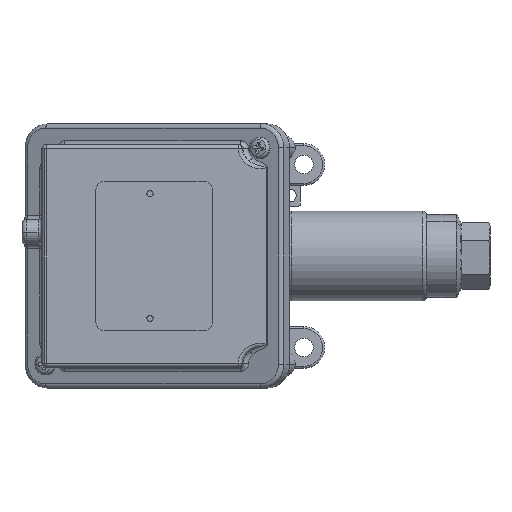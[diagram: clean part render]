
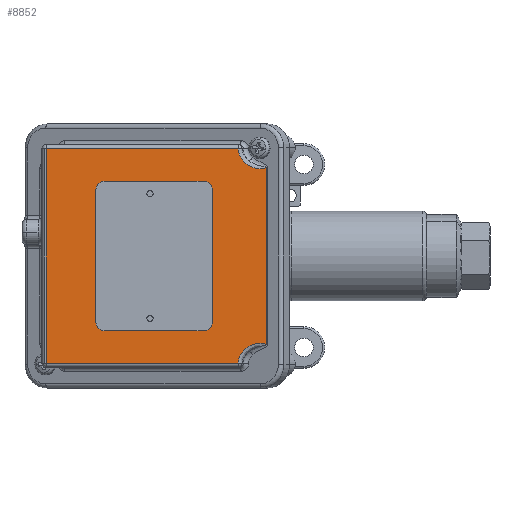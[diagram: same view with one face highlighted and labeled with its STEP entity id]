
A CAD part, left-side view. The second image highlights one B-rep face of the part: STEP entity #8852.
In plain terms, the highlighted planar face has unit normal (-1, 0.005, 0).
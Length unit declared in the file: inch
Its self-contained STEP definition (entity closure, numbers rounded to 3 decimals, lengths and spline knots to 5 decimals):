
#445 = DIRECTION ( 'NONE',  ( -0.005, -1., 0. ) ) ;
#1003 = EDGE_CURVE ( 'NONE', #2792, #26091, #18952, .T. ) ;
#1339 = CARTESIAN_POINT ( 'NONE',  ( -2.32063, 0.60182, -1.39798 ) ) ;
#1736 = ORIENTED_EDGE ( 'NONE', *, *, #2872, .T. ) ;
#1998 = EDGE_LOOP ( 'NONE', ( #22800, #23252 ) ) ;
#2638 =( BOUNDED_CURVE ( )  B_SPLINE_CURVE ( 3, ( #21377, #1339, #21517, #25210 ),
 .UNSPECIFIED., .F., .T. ) 
 B_SPLINE_CURVE_WITH_KNOTS ( ( 4, 4 ),
 ( 3.18961, 4.95247 ),
 .UNSPECIFIED. ) 
 CURVE ( )  GEOMETRIC_REPRESENTATION_ITEM ( )  RATIONAL_B_SPLINE_CURVE ( ( 1., 0.757, 0.757, 1. ) ) 
 REPRESENTATION_ITEM ( '' )  );
#2741 = AXIS2_PLACEMENT_3D ( 'NONE', #24695, #6629, #14675 ) ;
#2792 = VERTEX_POINT ( 'NONE', #15527 ) ;
#2840 = CARTESIAN_POINT ( 'NONE',  ( -2.3055, 3.50088, 1.61 ) ) ;
#2872 = EDGE_CURVE ( 'NONE', #8173, #19404, #15245, .T. ) ;
#2913 = EDGE_CURVE ( 'NONE', #14694, #8173, #11848, .T. ) ;
#3016 = ORIENTED_EDGE ( 'NONE', *, *, #6739, .T. ) ;
#3043 = EDGE_CURVE ( 'NONE', #20599, #20402, #8409, .T. ) ;
#4297 = ORIENTED_EDGE ( 'NONE', *, *, #26018, .T. ) ;
#4407 = CARTESIAN_POINT ( 'NONE',  ( -2.31365, 1.9384, 0.937 ) ) ;
#4754 = VECTOR ( 'NONE', #17989, 39.37008 ) ;
#4809 = CARTESIAN_POINT ( 'NONE',  ( -2.32057, 0.61286, 1.61 ) ) ;
#4928 = FACE_OUTER_BOUND ( 'NONE', #14355, .T. ) ;
#4929 = DIRECTION ( 'NONE',  ( -0.005, -1., 0. ) ) ;
#5243 = DIRECTION ( 'NONE',  ( -0.005, -1., 0. ) ) ;
#5265 = CIRCLE ( 'NONE', #19977, 0.0465 ) ;
#6629 = DIRECTION ( 'NONE',  ( 1., -0.005, 0. ) ) ;
#6739 = EDGE_CURVE ( 'NONE', #20902, #14694, #20709, .T. ) ;
#6755 = DIRECTION ( 'NONE',  ( -1., 0.005, 0. ) ) ;
#6786 = AXIS2_PLACEMENT_3D ( 'NONE', #16376, #24326, #10739 ) ;
#6808 = CARTESIAN_POINT ( 'NONE',  ( -2.31341, 1.9849, -0.938 ) ) ;
#6891 = CARTESIAN_POINT ( 'NONE',  ( -2.32282, 0.18143, 1.61 ) ) ;
#7153 = AXIS2_PLACEMENT_3D ( 'NONE', #19425, #21171, #25152 ) ;
#7168 = CARTESIAN_POINT ( 'NONE',  ( -2.31389, 1.8919, -0.938 ) ) ;
#7302 = ORIENTED_EDGE ( 'NONE', *, *, #15616, .T. ) ;
#7401 = CARTESIAN_POINT ( 'NONE',  ( -2.31341, 1.9849, 0.937 ) ) ;
#8173 = VERTEX_POINT ( 'NONE', #13940 ) ;
#8409 = LINE ( 'NONE', #14585, #24579 ) ;
#8735 = EDGE_CURVE ( 'NONE', #26091, #2792, #5265, .T. ) ;
#8852 = ADVANCED_FACE ( 'NONE', ( #16613, #19088, #4928 ), #12974, .F. ) ;
#8972 = CARTESIAN_POINT ( 'NONE',  ( -2.32057, 0.61286, -1.61 ) ) ;
#10739 = DIRECTION ( 'NONE',  ( -0.005, -1., 0. ) ) ;
#10895 = ORIENTED_EDGE ( 'NONE', *, *, #3043, .T. ) ;
#11243 = ORIENTED_EDGE ( 'NONE', *, *, #18639, .F. ) ;
#11848 = LINE ( 'NONE', #16040, #4754 ) ;
#12458 = DIRECTION ( 'NONE',  ( -1., 0.005, 0. ) ) ;
#12849 = ORIENTED_EDGE ( 'NONE', *, *, #12913, .F. ) ;
#12913 = EDGE_CURVE ( 'NONE', #23498, #14216, #14945, .T. ) ;
#12974 = PLANE ( 'NONE',  #2741 ) ;
#12980 = DIRECTION ( 'NONE',  ( 0.005, 1., 0. ) ) ;
#13047 = CIRCLE ( 'NONE', #7153, 0.0465 ) ;
#13940 = CARTESIAN_POINT ( 'NONE',  ( -2.3055, 3.50088, -1.61 ) ) ;
#14216 = VERTEX_POINT ( 'NONE', #6808 ) ;
#14355 = EDGE_LOOP ( 'NONE', ( #23217, #1736, #4297, #10895, #7302, #3016 ) ) ;
#14585 = CARTESIAN_POINT ( 'NONE',  ( -2.32276, 0.19397, 1.6725 ) ) ;
#14675 = DIRECTION ( 'NONE',  ( 0.005, 1., 0. ) ) ;
#14694 = VERTEX_POINT ( 'NONE', #2840 ) ;
#14945 = CIRCLE ( 'NONE', #16190, 0.0465 ) ;
#15245 = LINE ( 'NONE', #23308, #22458 ) ;
#15527 = CARTESIAN_POINT ( 'NONE',  ( -2.31389, 1.8919, 0.937 ) ) ;
#15553 = CARTESIAN_POINT ( 'NONE',  ( -2.32276, 0.19397, 1.32146 ) ) ;
#15616 = EDGE_CURVE ( 'NONE', #20402, #20902, #17249, .T. ) ;
#15937 = CARTESIAN_POINT ( 'NONE',  ( -2.32276, 0.19397, 1.32146 ) ) ;
#16040 = CARTESIAN_POINT ( 'NONE',  ( -2.3055, 3.50088, 1.6725 ) ) ;
#16190 = AXIS2_PLACEMENT_3D ( 'NONE', #20992, #6755, #4929 ) ;
#16314 = EDGE_LOOP ( 'NONE', ( #12849, #11243 ) ) ;
#16376 = CARTESIAN_POINT ( 'NONE',  ( -2.31365, 1.9384, 0.937 ) ) ;
#16613 = FACE_BOUND ( 'NONE', #1998, .T. ) ;
#17249 =( BOUNDED_CURVE ( )  B_SPLINE_CURVE ( 3, ( #15553, #21212, #19200, #17362 ),
 .UNSPECIFIED., .F., .T. ) 
 B_SPLINE_CURVE_WITH_KNOTS ( ( 4, 4 ),
 ( 1.33072, 3.09357 ),
 .UNSPECIFIED. ) 
 CURVE ( )  GEOMETRIC_REPRESENTATION_ITEM ( )  RATIONAL_B_SPLINE_CURVE ( ( 1., 0.757, 0.757, 1. ) ) 
 REPRESENTATION_ITEM ( '' )  );
#17362 = CARTESIAN_POINT ( 'NONE',  ( -2.32057, 0.61286, 1.61 ) ) ;
#17989 = DIRECTION ( 'NONE',  ( 0., 0., -1. ) ) ;
#18639 = EDGE_CURVE ( 'NONE', #14216, #23498, #13047, .T. ) ;
#18952 = CIRCLE ( 'NONE', #6786, 0.0465 ) ;
#19088 = FACE_BOUND ( 'NONE', #16314, .T. ) ;
#19200 = CARTESIAN_POINT ( 'NONE',  ( -2.32063, 0.60182, 1.39798 ) ) ;
#19404 = VERTEX_POINT ( 'NONE', #8972 ) ;
#19418 = CARTESIAN_POINT ( 'NONE',  ( -2.32276, 0.19397, -1.32146 ) ) ;
#19425 = CARTESIAN_POINT ( 'NONE',  ( -2.31365, 1.9384, -0.938 ) ) ;
#19510 = VECTOR ( 'NONE', #12980, 39.37008 ) ;
#19977 = AXIS2_PLACEMENT_3D ( 'NONE', #4407, #12458, #445 ) ;
#20402 = VERTEX_POINT ( 'NONE', #15937 ) ;
#20599 = VERTEX_POINT ( 'NONE', #19418 ) ;
#20709 = LINE ( 'NONE', #6891, #19510 ) ;
#20744 = DIRECTION ( 'NONE',  ( 0., 0., 1. ) ) ;
#20902 = VERTEX_POINT ( 'NONE', #4809 ) ;
#20992 = CARTESIAN_POINT ( 'NONE',  ( -2.31365, 1.9384, -0.938 ) ) ;
#21171 = DIRECTION ( 'NONE',  ( -1., 0.005, 0. ) ) ;
#21212 = CARTESIAN_POINT ( 'NONE',  ( -2.32159, 0.41746, 1.27099 ) ) ;
#21377 = CARTESIAN_POINT ( 'NONE',  ( -2.32057, 0.61286, -1.61 ) ) ;
#21517 = CARTESIAN_POINT ( 'NONE',  ( -2.32159, 0.41746, -1.27099 ) ) ;
#22458 = VECTOR ( 'NONE', #5243, 39.37008 ) ;
#22800 = ORIENTED_EDGE ( 'NONE', *, *, #1003, .F. ) ;
#23217 = ORIENTED_EDGE ( 'NONE', *, *, #2913, .T. ) ;
#23252 = ORIENTED_EDGE ( 'NONE', *, *, #8735, .F. ) ;
#23308 = CARTESIAN_POINT ( 'NONE',  ( -2.32081, 0.56672, -1.61 ) ) ;
#23498 = VERTEX_POINT ( 'NONE', #7168 ) ;
#24326 = DIRECTION ( 'NONE',  ( -1., 0.005, 0. ) ) ;
#24579 = VECTOR ( 'NONE', #20744, 39.37008 ) ;
#24695 = CARTESIAN_POINT ( 'NONE',  ( -2.32282, 0.18143, 1.6725 ) ) ;
#25152 = DIRECTION ( 'NONE',  ( -0.005, -1., 0. ) ) ;
#25210 = CARTESIAN_POINT ( 'NONE',  ( -2.32276, 0.19397, -1.32146 ) ) ;
#26018 = EDGE_CURVE ( 'NONE', #19404, #20599, #2638, .T. ) ;
#26091 = VERTEX_POINT ( 'NONE', #7401 ) ;
